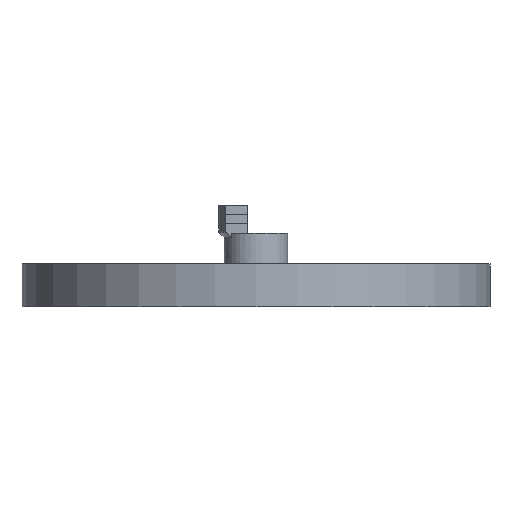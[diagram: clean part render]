
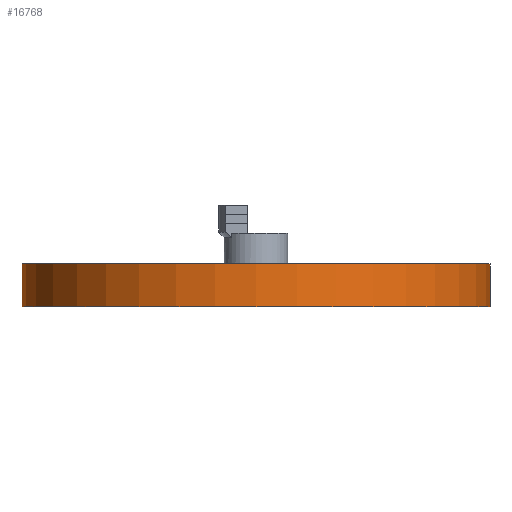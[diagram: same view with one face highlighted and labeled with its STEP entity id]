
A CAD part, left-side view. The second image highlights one B-rep face of the part: STEP entity #16768.
In plain terms, the highlighted cylindrical face has radius 44 mm (diameter 88 mm), a partial arc.
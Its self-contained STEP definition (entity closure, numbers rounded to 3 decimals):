
#317 = EDGE_CURVE ( 'NONE', #7656, #6324, #12142, .T. ) ;
#1419 = CYLINDRICAL_SURFACE ( 'NONE', #8916, 44. ) ;
#3090 = DIRECTION ( 'NONE',  ( 0., 0., -1. ) ) ;
#3558 = DIRECTION ( 'NONE',  ( 0., 0., -1. ) ) ;
#4689 = CARTESIAN_POINT ( 'NONE',  ( 0., -4., -44. ) ) ;
#5654 = EDGE_CURVE ( 'NONE', #13004, #18819, #34016, .T. ) ;
#5997 = CARTESIAN_POINT ( 'NONE',  ( 0., 128.451, -44. ) ) ;
#6324 = VERTEX_POINT ( 'NONE', #7167 ) ;
#6955 = EDGE_CURVE ( 'NONE', #13004, #7656, #30563, .T. ) ;
#7167 = CARTESIAN_POINT ( 'NONE',  ( 0., -4., 44. ) ) ;
#7251 = ORIENTED_EDGE ( 'NONE', *, *, #16697, .T. ) ;
#7656 = VERTEX_POINT ( 'NONE', #4689 ) ;
#8916 = AXIS2_PLACEMENT_3D ( 'NONE', #17005, #19441, #3090 ) ;
#9136 = DIRECTION ( 'NONE',  ( 0., 0., -1. ) ) ;
#11531 = DIRECTION ( 'NONE',  ( 0., -1., 0. ) ) ;
#11537 = DIRECTION ( 'NONE',  ( 0., -1., 0. ) ) ;
#11783 = EDGE_LOOP ( 'NONE', ( #35186, #7251, #12455, #28053 ) ) ;
#12142 = CIRCLE ( 'NONE', #35224, 44. ) ;
#12455 = ORIENTED_EDGE ( 'NONE', *, *, #317, .F. ) ;
#13004 = VERTEX_POINT ( 'NONE', #20775 ) ;
#16697 = EDGE_CURVE ( 'NONE', #18819, #6324, #30428, .T. ) ;
#16768 = ADVANCED_FACE ( 'NONE', ( #20499 ), #1419, .T. ) ;
#17005 = CARTESIAN_POINT ( 'NONE',  ( 0., 128.451, 0. ) ) ;
#18819 = VERTEX_POINT ( 'NONE', #35770 ) ;
#19441 = DIRECTION ( 'NONE',  ( 0., -1., 0. ) ) ;
#20499 = FACE_OUTER_BOUND ( 'NONE', #11783, .T. ) ;
#20775 = CARTESIAN_POINT ( 'NONE',  ( 0., 4., -44. ) ) ;
#22573 = CARTESIAN_POINT ( 'NONE',  ( 0., 4., 0. ) ) ;
#24365 = CARTESIAN_POINT ( 'NONE',  ( 0., 128.451, 44. ) ) ;
#27755 = DIRECTION ( 'NONE',  ( 0., -1., 0. ) ) ;
#27824 = VECTOR ( 'NONE', #27755, 1000. ) ;
#28053 = ORIENTED_EDGE ( 'NONE', *, *, #6955, .F. ) ;
#30124 = VECTOR ( 'NONE', #11537, 1000. ) ;
#30428 = LINE ( 'NONE', #24365, #27824 ) ;
#30563 = LINE ( 'NONE', #5997, #30124 ) ;
#30794 = DIRECTION ( 'NONE',  ( 0., -1., 0. ) ) ;
#33619 = AXIS2_PLACEMENT_3D ( 'NONE', #22573, #11531, #3558 ) ;
#33792 = CARTESIAN_POINT ( 'NONE',  ( 0., -4., 0. ) ) ;
#34016 = CIRCLE ( 'NONE', #33619, 44. ) ;
#35186 = ORIENTED_EDGE ( 'NONE', *, *, #5654, .T. ) ;
#35224 = AXIS2_PLACEMENT_3D ( 'NONE', #33792, #30794, #9136 ) ;
#35770 = CARTESIAN_POINT ( 'NONE',  ( 0., 4., 44. ) ) ;
